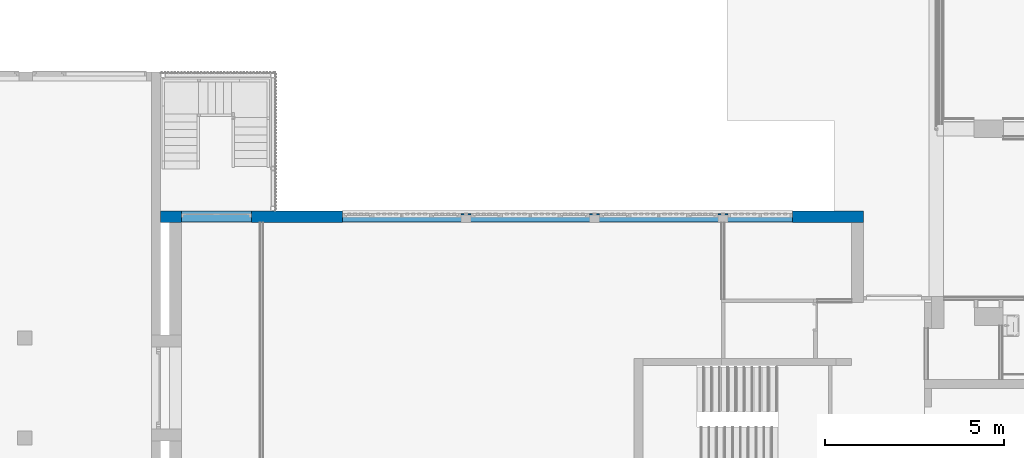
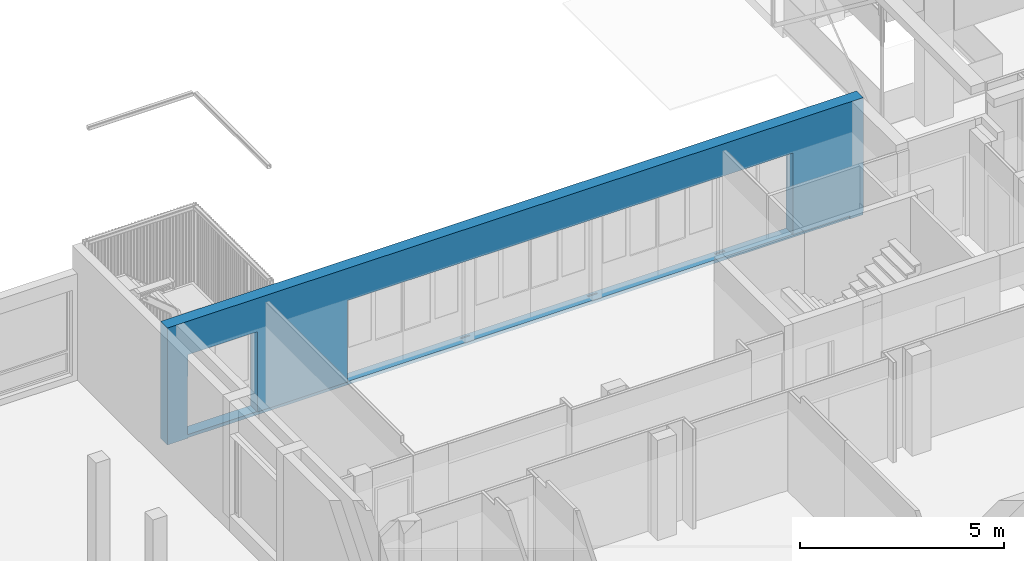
# One storey, part 37 of 117: 1 wall, 8 openings.
"""IFC2X3 building model written with IfcOpenShell, lengths in millimetres."""

import ifcopenshell
import ifcopenshell.guid

model = None  # the IFC model being written
_history = None  # IfcOwnerHistory: only IFC2X3 demands one
_inside = {}  # id of a spatial element -> (the spatial element, [elements in it])
_under = {}  # id of a project, library or spatial element -> (it, [spatial elements below it])
_declared = {}  # id of a project -> (the project, [libraries it declares])
_typed = {}  # id of a type object -> (the type object, [elements of that type])
_made_of = {}  # id of a material, layer set ... -> (it, [elements and type objects made of it])


def new_model(schema):
    """Start an empty IFC model of exactly this schema.

    Asked for "IFC4X3", IfcOpenShell would pick the latest addendum, in which some entities
    have other attributes; the version numbers below select the first issue.
    IFC2X3 requires an IfcOwnerHistory on every rooted entity: one is made here for all.
    """
    global model, _history
    if schema == "IFC4X3":
        model = ifcopenshell.file(schema_version=(4, 3, 0, 0))
    else:
        model = ifcopenshell.file(schema=schema)
    _inside.clear()
    _under.clear()
    _declared.clear()
    _typed.clear()
    _made_of.clear()
    _history = None
    if model.schema == "IFC2X3":
        org = make("IfcOrganization", Name="unknown")
        user = make(
            "IfcPersonAndOrganization",
            ThePerson=make("IfcPerson", FamilyName="unknown"),
            TheOrganization=org,
        )
        app = make(
            "IfcApplication",
            ApplicationDeveloper=org,
            Version="unknown",
            ApplicationFullName="unknown",
            ApplicationIdentifier="unknown",
        )
        _history = make(
            "IfcOwnerHistory",
            OwningUser=user,
            OwningApplication=app,
            ChangeAction="ADDED",
            CreationDate=0,
        )
    return model


def make(cls, **values):
    """One entity of the class cls with the attributes given. An attribute that is None is left unset."""
    return model.create_entity(
        cls, **{name: value for name, value in values.items() if value is not None}
    )


def entity(cls, *values):
    """Any entity or typed value of the class cls, its attributes in the order of the schema. None: left unset."""
    e = model.create_entity(cls)
    for i, value in enumerate(values):
        if value is not None:
            e[i] = value
    return e


def rooted(cls, **values):
    """An entity with a GlobalId (a new one), such as an element, a storey or a relation."""
    return make(cls, GlobalId=ifcopenshell.guid.new(), OwnerHistory=_history, **values)


def si_unit(unit_type, name, prefix=None):
    """IfcSIUnit, for example si_unit("LENGTHUNIT", "METRE", prefix="MILLI")."""
    return make("IfcSIUnit", UnitType=unit_type, Prefix=prefix, Name=name)


def converted_unit(unit_type, name, factor, base, dimensions=None, offset=None):
    """IfcConversionBasedUnit, such as the inch: factor (a typed value) times the base unit."""
    return make(
        "IfcConversionBasedUnit"
        if offset is None
        else "IfcConversionBasedUnitWithOffset",
        ConversionOffset=offset,
        Dimensions=None
        if dimensions is None
        else entity("IfcDimensionalExponents", *dimensions),
        UnitType=unit_type,
        Name=name,
        ConversionFactor=make(
            "IfcMeasureWithUnit", ValueComponent=factor, UnitComponent=base
        ),
    )


def derived_unit(unit_type, elements):
    """IfcDerivedUnit: a product of units, each with its exponent."""
    return make(
        "IfcDerivedUnit",
        Elements=[
            make("IfcDerivedUnitElement", Unit=unit, Exponent=power)
            for unit, power in elements
        ],
        UnitType=unit_type,
    )


def money_unit(currency):
    """IfcMonetaryUnit."""
    return make("IfcMonetaryUnit", Currency=currency)


def assignment(units):
    """IfcUnitAssignment: the units of a project."""
    return None if units is None else make("IfcUnitAssignment", Units=units)


def point(xyz):
    """IfcCartesianPoint."""
    return None if xyz is None else make("IfcCartesianPoint", Coordinates=xyz)


def direction(xyz):
    """IfcDirection."""
    return None if xyz is None else make("IfcDirection", DirectionRatios=xyz)


def frame(location, z_axis=None, x_axis=None):
    """IfcAxis2Placement3D, a coordinate frame: its origin and axes. An axis left out is left unset."""
    return make(
        "IfcAxis2Placement3D",
        Location=point(location),
        Axis=direction(z_axis),
        RefDirection=direction(x_axis),
    )


def origin_with_axes():
    """The frame at (0, 0, 0) with the z axis (0, 0, 1) and the x axis (1, 0, 0) written out."""
    return frame((0.0, 0.0, 0.0), z_axis=(0.0, 0.0, 1.0), x_axis=(1.0, 0.0, 0.0))


def place(relative_to, where):
    """IfcLocalPlacement: puts the frame where relative to a parent placement (None: the world)."""
    return make(
        "IfcLocalPlacement", PlacementRelTo=relative_to, RelativePlacement=where
    )


def context(
    kind, dimensions, precision=None, world=None, true_north=None, identifier=None
):
    """IfcGeometricRepresentationContext, for example the 3D "Model" context."""
    return make(
        "IfcGeometricRepresentationContext",
        ContextIdentifier=identifier,
        ContextType=kind,
        CoordinateSpaceDimension=dimensions,
        Precision=precision,
        WorldCoordinateSystem=world,
        TrueNorth=true_north,
    )


def subcontext(parent, identifier, kind, view, scale=None):
    """IfcGeometricRepresentationSubContext, for example "Body" below "Model"."""
    return make(
        "IfcGeometricRepresentationSubContext",
        ContextIdentifier=identifier,
        ContextType=kind,
        ParentContext=parent,
        TargetScale=scale,
        TargetView=view,
    )


def project(units=None, contexts=None):
    """IfcProject with its units and contexts."""
    return rooted(
        "IfcProject",
        Name="project",
        RepresentationContexts=contexts,
        UnitsInContext=assignment(units),
    )


def spatial(cls, under=None, at=None, **own):
    """A site, building, storey or space (cls), placed at a placement, below another one or the project."""
    s = rooted(cls, ObjectPlacement=at, **own)
    if under is not None:
        _under.setdefault(under.id(), (under, []))[1].append(s)
    return s


def faces_of(points, faces, orient=None, outer=None):
    """IfcFace entities. A face is a list of loops; a loop is a list of indices into points, from 0.

    orient and outer hold one flag for each loop. By default every Orientation is true, the
    first loop of a face is its IfcFaceOuterBound and the others are IfcFaceBound.
    """
    made = []
    for i, loops in enumerate(faces):
        bounds = []
        for j, loop in enumerate(loops):
            is_outer = j == 0 if outer is None else outer[i][j]
            bounds.append(
                make(
                    "IfcFaceOuterBound" if is_outer else "IfcFaceBound",
                    Bound=make("IfcPolyLoop", Polygon=[points[k] for k in loop]),
                    Orientation=True if orient is None else orient[i][j],
                )
            )
        made.append(make("IfcFace", Bounds=bounds))
    return made


def faceted_brep(points, faces, orient=None, outer=None, voids=None):
    """IfcFacetedBrep: a solid bounded by flat faces; with voids (closed shells), ...WithVoids."""
    shared = [point(p) for p in points]
    hull = make("IfcClosedShell", CfsFaces=faces_of(shared, faces, orient, outer))
    if voids is None:
        return make("IfcFacetedBrep", Outer=hull)
    return make(
        "IfcFacetedBrepWithVoids",
        Outer=hull,
        Voids=[
            make(cls, CfsFaces=faces_of(shared, fs, o, b)) for cls, fs, o, b in voids
        ],
    )


def shape(context_of_items, identifier, shape_type, items):
    """IfcShapeRepresentation: the items that make up one representation, for example the "Body"."""
    return make(
        "IfcShapeRepresentation",
        ContextOfItems=context_of_items,
        RepresentationIdentifier=identifier,
        RepresentationType=shape_type,
        Items=items,
    )


def material(Name=None, Category=None):
    """IfcMaterial."""
    return make("IfcMaterial", Name=Name, Category=Category)


def made_of(thing, what):
    """Note that an element or type object is made of a material, layer set ...; save() writes the relation."""
    if what is not None:
        _made_of.setdefault(what.id(), (what, []))[1].append(thing)
    return thing


def type_object(cls, material=None, **own):
    """A type object (cls), such as IfcWallType, which elements share."""
    return made_of(rooted(cls, **own), material)


def element(
    cls,
    number,
    at=None,
    inside=None,
    cuts=None,
    type_object=None,
    material=None,
    context=None,
    identifier="Body",
    shape_type=None,
    held_by="IfcProductDefinitionShape",
    body=None,
    shapes=None,
    **own,
):
    """One element of the class cls, such as IfcWall. Its Tag is "e" and its number.

    at: its placement. inside: the storey or other place that contains it. cuts: it is an
    opening in that element (IfcRelVoidsElement). A single representation is given by context,
    identifier, shape_type and body (its items); several are given by shapes. held_by: the class
    of the entity that holds the representations. save() writes the other relations.
    """
    e = rooted(cls, Tag="e%d" % number, ObjectPlacement=at, **own)
    if body is not None:
        shapes = [shape(context, identifier, shape_type, body)]
    if shapes is not None:
        e.Representation = make(held_by, Representations=shapes)
    if inside is not None:
        _inside.setdefault(inside.id(), (inside, []))[1].append(e)
    if cuts is not None:
        rooted(
            "IfcRelVoidsElement", RelatingBuildingElement=cuts, RelatedOpeningElement=e
        )
    if type_object is not None:
        _typed.setdefault(type_object.id(), (type_object, []))[1].append(e)
    return made_of(e, material)


def aggregate(whole, parts):
    """IfcRelAggregates: a whole, such as a stair, and the parts it consists of."""
    return rooted("IfcRelAggregates", RelatingObject=whole, RelatedObjects=parts)


def save(model, path):
    """Write the relations noted so far, then the file.

    IfcRelAggregates (storeys below a building ...), IfcRelContainedInSpatialStructure (elements
    in a storey), IfcRelDefinesByType, IfcRelAssociatesMaterial and IfcRelDeclares: one each for
    every whole, place, type object, material and project.
    """
    for whole, parts in _under.values():
        aggregate(whole, parts)
    for where, things in _inside.values():
        rooted(
            "IfcRelContainedInSpatialStructure",
            RelatedElements=things,
            RelatingStructure=where,
        )
    for kind, things in _typed.values():
        rooted("IfcRelDefinesByType", RelatedObjects=things, RelatingType=kind)
    for what, things in _made_of.values():
        rooted("IfcRelAssociatesMaterial", RelatedObjects=things, RelatingMaterial=what)
    for by, libraries in _declared.values():
        rooted("IfcRelDeclares", RelatingContext=by, RelatedDefinitions=libraries)
    model.write(path)


model = new_model("IFC2X3")

# Units and contexts
model_context = context("Model", 3, precision=0.01, world=origin_with_axes(), true_north=direction((0.0, 1.0)))
body_context = subcontext(model_context, "Body", "Model", "MODEL_VIEW")
ifc_project = project(units=[si_unit("LENGTHUNIT", "METRE", prefix="MILLI"), si_unit("AREAUNIT", "SQUARE_METRE"), si_unit("VOLUMEUNIT", "CUBIC_METRE"), converted_unit("PLANEANGLEUNIT", "DEGREE", entity("IfcPlaneAngleMeasure", 0.0174532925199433), si_unit("PLANEANGLEUNIT", "RADIAN"), dimensions=[0, 0, 0, 0, 0, 0, 0]), money_unit("EUR"), converted_unit("TIMEUNIT", "Year", entity("IfcTimeMeasure", 31557600.0), si_unit("TIMEUNIT", "SECOND"), dimensions=[0, 0, 1, 0, 0, 0, 0]), si_unit("MASSUNIT", "GRAM", prefix="KILO"), si_unit("THERMODYNAMICTEMPERATUREUNIT", "DEGREE_CELSIUS"), si_unit("LUMINOUSINTENSITYUNIT", "LUMEN"), si_unit("ENERGYUNIT", "JOULE", prefix="MEGA"), derived_unit("THERMALCONDUCTANCEUNIT", [(si_unit("POWERUNIT", "WATT"), 1), (si_unit("LENGTHUNIT", "METRE"), -1), (si_unit("THERMODYNAMICTEMPERATUREUNIT", "KELVIN"), -1)]), derived_unit("SPECIFICHEATCAPACITYUNIT", [(si_unit("ENERGYUNIT", "JOULE"), 1), (si_unit("MASSUNIT", "GRAM", prefix="KILO"), -1), (si_unit("THERMODYNAMICTEMPERATUREUNIT", "KELVIN"), -1)]), derived_unit("MASSDENSITYUNIT", [(si_unit("MASSUNIT", "GRAM", prefix="KILO"), 1), (si_unit("VOLUMEUNIT", "CUBIC_METRE"), -1)])], contexts=[model_context])

# Site, building, storey
site_placement = place(None, origin_with_axes())
site = spatial("IfcSite", under=ifc_project, at=site_placement, Name="Site", CompositionType="ELEMENT")
building_placement = place(site_placement, origin_with_axes())
building = spatial("IfcBuilding", under=site, at=building_placement, Name="Naam gebouw", CompositionType="ELEMENT")
storey_placement = place(building_placement, frame((0.0, 0.0, 4150.0), z_axis=(0.0, 0.0, 1.0), x_axis=(1.0, 0.0, 0.0)))
storey = spatial("IfcBuildingStorey", under=building, at=storey_placement, Name="1e verdieping N", CompositionType="ELEMENT", Elevation=4150.0)

# Wall, openings
ifc_material = material(Name="ALG - CONSTRUCTIEF")
wall_type = type_object("IfcWallType", Name="ALG - CONSTRUCTIEF 330", PredefinedType="NOTDEFINED")
wall_placement = place(storey_placement, frame((18000.00000910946, 19995.91321708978, -99.99999999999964), z_axis=(0.0, 0.0, 1.0), x_axis=(-0.9999999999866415, -5.168867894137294e-06, 0.0)))
wall = element("IfcWall", 1, at=wall_placement, inside=storey, type_object=wall_type, material=ifc_material, Name="_Wand-x", context=body_context, shape_type="Brep", body=[
    faceted_brep([(16803.088577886, 0.0001701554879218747, 99.99999999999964), (16803.088577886, -19.98590840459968, 99.99999999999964), (14262.49866534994, -19.98578315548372, 99.99999999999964), (14262.49866534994, 0.0003899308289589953, 99.99999999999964), (16803.088577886, -330.0000000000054, 99.99999999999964), (16803.088577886, -0.0005300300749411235, 2500.0), (16803.088577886, -329.9999999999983, 2500.0), (18770.07611456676, -19.98600537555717, 99.99999999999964), (18770.07601126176, -19.98600537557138, 0.0), (50.00000813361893, -19.98508249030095, 0.0), (50.00000813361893, -19.98508249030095, 99.99999999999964), (1662.498665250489, -19.98516198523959, 99.99999999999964), (14262.49866534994, -330.0000000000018, 99.99999999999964), (14262.49866534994, -330.0000000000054, 103.2702048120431), (14262.49866534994, -260.0000000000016, 115.6130934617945), (14262.49866534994, -253.0637940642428, 116.8361337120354), (14262.49866534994, -253.0637940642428, 128.5143329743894), (14262.49866534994, -255.0637940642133, 128.5143329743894), (14262.49866534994, -255.0637940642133, 118.5143329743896), (14262.49866534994, -260.0000000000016, 117.6439466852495), (14262.49866534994, -330.0000000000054, 105.3010580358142), (14262.49866534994, -330.0000000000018, 2540.00000000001), (14262.49866534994, -0.0005857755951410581, 2540.00000000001), (1662.498665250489, 0.0004204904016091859, 2539.999999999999), (1662.498665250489, 0.001567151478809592, 99.99999999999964), (50.00000911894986, 0.001714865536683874, 99.99999999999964), (-318.7173821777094, 0.0, 0.0), (-318.7173821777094, 0.0, 99.99999999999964), (-330.0000000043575, 0.0, 99.99999999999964), (-330.0000000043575, 0.0, 3500.0), (153.2229483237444, 0.0, 3500.0), (153.2229494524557, 0.0, 3300.000000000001), (18884.42764882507, 0.0, 3300.000000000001), (19350.00000934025, 0.0, 3500.0), (19350.00000934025, 0.0, 0.0), (18770.07611456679, 0.0, 0.0), (18770.07611456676, 0.0, 99.99999999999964), (18770.07611456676, -0.0004932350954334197, 2500.0), (18770.07611456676, -330.000000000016, 99.99999999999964), (18770.07611456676, -330.0000000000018, 2500.0), (16259.99830360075, -330.0000000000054, 99.99999999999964), (19349.99830361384, -330.0000000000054, 0.0), (19349.99830361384, -330.0000000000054, 3500.0), (-330.0016966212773, -330.0000000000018, 3500.0), (-330.0016966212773, -330.0000000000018, 99.99999999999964), (492.9983033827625, -330.0000000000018, 99.99999999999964), (492.9983033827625, -330.0000000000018, 0.0), (557.9983033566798, -329.9999999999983, 0.0), (557.9983033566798, -329.9999999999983, 99.99999999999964), (657.9983033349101, -330.0000000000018, 99.99999999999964), (657.9983033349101, -330.0000000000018, 0.0), (16259.99830360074, -330.0000000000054, 0.0), (1662.498665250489, -329.9999999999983, 2539.999999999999), (1662.498665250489, -330.0000000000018, 99.99999999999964), (1662.498665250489, -330.0000000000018, 103.2589561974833), (1662.498665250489, -330.0000000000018, 105.2898094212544), (557.9983810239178, -314.9740657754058, 0.0), (492.9983810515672, -314.9737297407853, 0.0), (-318.7190102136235, -314.9695340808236, 0.0), (50.0000091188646, 0.0, 0.0), (657.9983809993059, -314.9745826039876, 0.0), (3462.498892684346, -215.9992080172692, 99.99999999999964), (3737.498892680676, -216.0006294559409, 99.99999999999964), (3737.498665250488, -260.0000000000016, 99.99999999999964), (3462.498892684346, -260.0000000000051, 99.99999999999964), (7062.500236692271, -215.9977865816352, 99.99999999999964), (7337.500236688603, -215.9992080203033, 99.99999999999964), (7337.500009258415, -260.0000000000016, 99.99999999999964), (7062.500009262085, -260.0000000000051, 99.99999999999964), (10662.49889278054, -215.9992078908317, 100.0000000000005), (10937.49889277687, -216.0006293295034, 99.99999999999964), (10937.49949213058, -260.0000000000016, 99.99999999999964), (10662.49866535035, -260.0000000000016, 99.99999999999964), (3737.498892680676, -216.0006294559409, 2540.0), (3462.498892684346, -215.9992080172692, 2539.999999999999), (3462.498892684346, -260.0000000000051, 2539.999999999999), (3737.498665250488, -260.0000000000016, 2540.0), (7337.500236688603, -215.9992080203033, 2540.0), (7062.500236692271, -215.9977865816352, 2540.0), (7062.500009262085, -260.0000000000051, 2540.0), (7337.500009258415, -260.0000000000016, 2540.0), (10662.49866535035, -260.0000000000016, 2540.00000000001), (10937.49949213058, -260.0000000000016, 2540.00000000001), (10937.49889277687, -216.0006293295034, 2540.00000000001), (10662.49889278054, -215.9992078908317, 2540.00000000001), (1662.498665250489, -260.0000000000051, 117.6326980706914), (1662.498665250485, -255.0000000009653, 118.5143329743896), (1662.498665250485, -255.0000000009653, 128.5143329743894), (1662.498665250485, -253.0000000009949, 128.5143329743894), (1662.498665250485, -253.0000000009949, 116.8361337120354), (1662.498665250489, -260.0000000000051, 115.6018448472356), (-318.7190102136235, -314.9695340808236, 99.99999999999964), (492.9983810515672, -314.9737297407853, 99.99999999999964), (18884.42764832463, -0.09681912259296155, 3500.0), (557.9983810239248, -314.9740657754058, 99.99999999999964), (657.9983809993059, -314.9745826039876, 99.99999999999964)], [[[0, 1, 2, 3]], [[4, 1, 0, 5, 6]], [[1, 7, 8, 9, 10, 11, 2]], [[3, 2, 12, 13, 14, 15, 16, 17, 18, 19, 20, 21, 22]], [[5, 0, 3, 22, 23, 24, 25, 26, 27, 28, 29, 30, 31, 32, 33, 34, 35, 36, 37]], [[7, 1, 4, 38]], [[6, 5, 37, 39]], [[40, 4, 6, 39, 38, 41, 42, 43, 44, 45, 46, 47, 48, 49, 50, 51], [52, 21, 20, 13, 12, 53, 54, 55]], [[7, 36, 35, 8]], [[56, 47, 46, 57, 58, 26, 59, 9, 8, 35, 34, 41, 51, 50, 60]], [[9, 59, 25, 10]], [[24, 11, 10, 25]], [[12, 2, 11, 53], [61, 62, 63, 64], [65, 66, 67, 68], [69, 70, 71, 72]], [[19, 18, 17, 16, 15, 14, 13, 20]], [[52, 23, 22, 21], [73, 74, 75, 76], [77, 78, 79, 80], [81, 82, 83, 84]], [[23, 52, 55, 85, 86, 87, 88, 89, 90, 54, 53, 11, 24]], [[59, 26, 25]], [[27, 26, 58, 91]], [[28, 27, 91, 92, 45, 44]], [[29, 28, 44, 43]], [[33, 93, 30, 29, 43, 42]], [[32, 31, 30]], [[93, 33, 32]], [[34, 33, 42, 41]], [[37, 36, 7, 38, 39]], [[40, 51, 41, 38, 4]], [[92, 57, 46, 45]], [[56, 94, 48, 47]], [[94, 95, 49, 48]], [[95, 60, 50, 49]], [[55, 54, 90, 89, 88, 87, 86, 85]], [[57, 92, 91, 58]], [[56, 60, 95, 94]], [[62, 61, 64, 63]], [[66, 65, 68, 67]], [[69, 72, 71, 70]], [[74, 73, 76, 75]], [[78, 77, 80, 79]], [[81, 84, 83, 82]], [[93, 32, 30]]]),
])
opening_1_placement = place(wall_placement, frame((4568.755261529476, 0.0, 99.99999999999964), z_axis=(0.0, 0.0, 1.0), x_axis=(1.0, 0.0, 0.0)))
element("IfcOpeningElement", 2, at=opening_1_placement, cuts=wall, Name="_Merk-020sp", context=body_context, shape_type="Brep", body=[
    faceted_brep([(831.2565962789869, -260.0000000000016, 0.0), (831.2565962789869, -260.0000000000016, 2440.0), (831.2565962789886, -331.1013098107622, 2440.0), (831.2565962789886, -331.1013098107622, 0.0), (831.2565962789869, 1.101309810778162, 0.0), (831.2565962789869, 1.101309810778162, 2440.0), (-1106.256596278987, -260.0000000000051, 2440.0), (-1106.256596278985, -331.1013098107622, 2440.0), (-1106.256596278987, 1.101309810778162, 2440.0), (-1106.256596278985, -331.1013098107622, 0.0), (-1106.256596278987, -260.0000000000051, 0.0), (-1106.256596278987, 1.101309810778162, 0.0)], [[[0, 1, 2, 3]], [[1, 0, 4, 5]], [[6, 7, 2, 1, 5, 8]], [[7, 9, 3, 2]], [[0, 3, 9, 10, 11, 4]], [[5, 4, 11, 8]], [[6, 10, 9, 7]], [[10, 6, 8, 11]]]),
])
opening_2_placement = place(wall_placement, frame((2562.498778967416, 0.0, 99.99999999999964), z_axis=(0.0, 0.0, 1.0), x_axis=(1.0, 0.0, 0.0)))
element("IfcOpeningElement", 3, at=opening_2_placement, cuts=wall, Name="_Merk-021", context=body_context, shape_type="Brep", body=[
    faceted_brep([(900.0001137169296, -260.0000000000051, 0.0), (900.0001137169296, -260.0000000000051, 2440.0), (900.0001137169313, -331.1013098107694, 2440.0), (900.0001137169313, -331.1013098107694, 0.0), (900.0001137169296, 1.101309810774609, 0.0), (900.0001137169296, 1.101309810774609, 2440.0), (-900.0001137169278, -260.0000000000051, 2440.0), (-900.0001137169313, -331.1013098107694, 2440.0), (-900.0001137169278, 1.101309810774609, 2440.0), (-900.0001137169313, -331.1013098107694, 0.0), (-900.0001137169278, -260.0000000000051, 0.0), (-900.0001137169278, 1.101309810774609, 0.0)], [[[0, 1, 2, 3]], [[1, 0, 4, 5]], [[6, 7, 2, 1, 5, 8]], [[7, 9, 3, 2]], [[0, 3, 9, 10, 11, 4]], [[5, 4, 11, 8]], [[6, 10, 9, 7]], [[10, 6, 8, 11]]]),
])
opening_3_placement = place(wall_placement, frame((9831.249492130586, 0.0, 99.99999999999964), z_axis=(0.0, 0.0, 1.0), x_axis=(1.0, 0.0, 0.0)))
element("IfcOpeningElement", 4, at=opening_3_placement, cuts=wall, Name="_Merk-020", context=body_context, shape_type="Brep", body=[
    faceted_brep([(1106.249999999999, -260.0000000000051, 0.0), (1106.249999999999, -260.0000000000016, 2440.00000000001), (1106.249999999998, -331.1013098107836, 2440.00000000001), (1106.249999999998, -331.1013098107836, 0.0), (1106.249999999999, 1.101309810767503, 0.0), (1106.249999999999, 1.101309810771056, 2440.00000000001), (-831.2500000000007, -260.0000000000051, 2440.00000000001), (-831.249999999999, -331.1013098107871, 2440.00000000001), (-831.2500000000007, 1.101309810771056, 2440.00000000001), (-831.249999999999, -331.1013098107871, 0.0), (-831.2500000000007, -260.0000000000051, 0.0), (-831.2500000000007, 1.101309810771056, 0.0)], [[[0, 1, 2, 3]], [[1, 0, 4, 5]], [[6, 7, 2, 1, 5, 8]], [[7, 9, 3, 2]], [[0, 3, 9, 10, 11, 4]], [[5, 4, 11, 8]], [[6, 10, 9, 7]], [[10, 6, 8, 11]]]),
])
opening_4_placement = place(wall_placement, frame((6231.267449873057, 0.0, 99.99999999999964), z_axis=(0.0, 0.0, 1.0), x_axis=(1.0, 0.0, 0.0)))
element("IfcOpeningElement", 5, at=opening_4_placement, cuts=wall, Name="_Merk-020", context=body_context, shape_type="Brep", body=[
    faceted_brep([(1106.25559206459, -260.0000000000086, 0.0), (1106.25559206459, -260.0000000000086, 2440.0), (1106.255592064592, -331.1013098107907, 2440.0), (1106.255592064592, -331.1013098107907, 0.0), (1106.25559206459, 1.101309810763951, 0.0), (1106.25559206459, 1.101309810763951, 2440.0), (-831.2555920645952, -260.0000000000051, 2440.0), (-831.2555920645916, -331.1013098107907, 2440.0), (-831.2555920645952, 1.101309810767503, 2440.0), (-831.2555920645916, -331.1013098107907, 0.0), (-831.2555920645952, -260.0000000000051, 0.0), (-831.2555920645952, 1.101309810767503, 0.0)], [[[0, 1, 2, 3]], [[1, 0, 4, 5]], [[6, 7, 2, 1, 5, 8]], [[7, 9, 3, 2]], [[0, 3, 9, 10, 11, 4]], [[5, 4, 11, 8]], [[6, 10, 9, 7]], [[10, 6, 8, 11]]]),
])
opening_5_placement = place(wall_placement, frame((8168.749492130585, 0.0, 99.99999999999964), z_axis=(0.0, 0.0, 1.0), x_axis=(1.0, 0.0, 0.0)))
element("IfcOpeningElement", 6, at=opening_5_placement, cuts=wall, Name="_Merk-020sp", context=body_context, shape_type="Brep", body=[
    faceted_brep([(831.249999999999, -260.0000000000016, 0.0), (831.249999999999, -260.0000000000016, 2440.00000000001), (831.249999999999, -331.1013098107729, 2440.00000000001), (831.249999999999, -331.1013098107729, 0.0), (831.249999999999, 1.101309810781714, 0.0), (831.249999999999, 1.101309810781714, 2440.00000000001), (-1106.250000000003, -260.0000000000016, 2440.00000000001), (-1106.250000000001, -331.1013098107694, 2440.00000000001), (-1106.250000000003, 1.101309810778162, 2440.00000000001), (-1106.250000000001, -331.1013098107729, 0.0), (-1106.250000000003, -260.0000000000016, 0.0), (-1106.250000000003, 1.101309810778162, 0.0)], [[[0, 1, 2, 3]], [[1, 0, 4, 5]], [[6, 7, 2, 1, 5, 8]], [[7, 9, 3, 2]], [[0, 3, 9, 10, 11, 4]], [[5, 4, 11, 8]], [[6, 10, 9, 7]], [[10, 6, 8, 11]]]),
])
opening_6_placement = place(wall_placement, frame((13431.24866534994, 0.0, 99.99999999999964), z_axis=(0.0, 0.0, 1.0), x_axis=(1.0, 0.0, 0.0)))
element("IfcOpeningElement", 7, at=opening_6_placement, cuts=wall, Name="_Merk-020", context=body_context, shape_type="Brep", body=[
    faceted_brep([(831.2499999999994, -260.0000000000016, 0.0), (831.2499999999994, -260.0000000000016, 2440.00000000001), (831.2499999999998, -331.10130981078, 2440.00000000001), (831.2499999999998, -331.10130981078, 0.0), (831.2499999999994, 1.101309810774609, 0.0), (831.2499999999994, 1.101309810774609, 2440.00000000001), (-831.2500000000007, -260.0000000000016, 2440.00000000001), (-831.2500000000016, -331.1013098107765, 2440.00000000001), (-831.2500000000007, 1.101309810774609, 2440.00000000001), (-831.2500000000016, -331.1013098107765, 0.0), (-831.2500000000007, -260.0000000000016, 0.0), (-831.2500000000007, 1.101309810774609, 0.0)], [[[0, 1, 2, 3]], [[1, 0, 4, 5]], [[6, 7, 2, 1, 5, 8]], [[7, 9, 3, 2]], [[0, 3, 9, 10, 11, 4]], [[5, 4, 11, 8]], [[6, 10, 9, 7]], [[10, 6, 8, 11]]]),
])
opening_7_placement = place(wall_placement, frame((11768.74866534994, 0.0, 99.99999999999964), z_axis=(0.0, 0.0, 1.0), x_axis=(1.0, 0.0, 0.0)))
element("IfcOpeningElement", 8, at=opening_7_placement, cuts=wall, Name="_Merk-020sp", context=body_context, shape_type="Brep", body=[
    faceted_brep([(831.2499999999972, -260.0000000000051, 0.0), (831.2499999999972, -260.0000000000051, 2440.00000000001), (831.2499999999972, -331.1013098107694, 2440.00000000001), (831.2499999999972, -331.1013098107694, 0.0), (831.2499999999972, 1.101309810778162, 0.0), (831.2499999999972, 1.101309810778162, 2440.00000000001), (-1106.250000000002, -260.0000000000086, 2440.00000000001), (-1106.250000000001, -331.1013098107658, 2440.00000000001), (-1106.250000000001, 1.101309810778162, 2440.00000000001), (-1106.250000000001, -331.1013098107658, 0.0), (-1106.250000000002, -260.0000000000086, 0.0), (-1106.250000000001, 1.101309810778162, 0.0)], [[[0, 1, 2, 3]], [[1, 0, 4, 5]], [[6, 7, 2, 1, 5, 8]], [[7, 9, 3, 2]], [[0, 3, 9, 10, 11, 4]], [[5, 4, 11, 8]], [[6, 10, 9, 7]], [[10, 6, 8, 11]]]),
])
opening_8_placement = place(wall_placement, frame((17786.58234622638, 0.0, 99.99999999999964), z_axis=(0.0, 0.0, 1.0), x_axis=(1.0, 0.0, 0.0)))
element("IfcOpeningElement", 9, at=opening_8_placement, cuts=wall, Name="_Merk-018", context=body_context, shape_type="Brep", body=[
    faceted_brep([(983.4937683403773, -260.0000000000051, 0.0), (983.4937683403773, -260.0000000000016, 2400.0), (983.4937683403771, -331.1013098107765, 2400.0), (983.4937683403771, -331.1013098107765, 0.0), (983.4937683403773, 1.101309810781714, 0.0), (983.4937683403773, 1.101309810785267, 2400.0), (-983.4937683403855, -260.0000000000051, 2400.0), (-983.4937683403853, -331.1013098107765, 2400.0), (-983.4937683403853, 1.101309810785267, 2400.0), (-983.4937683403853, -331.1013098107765, 0.0), (-983.4937683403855, -260.0000000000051, 0.0), (-983.4937683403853, 1.101309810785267, 0.0)], [[[0, 1, 2, 3]], [[1, 0, 4, 5]], [[6, 7, 2, 1, 5, 8]], [[7, 9, 3, 2]], [[0, 3, 9, 10, 11, 4]], [[5, 4, 11, 8]], [[6, 10, 9, 7]], [[10, 6, 8, 11]]]),
])

save(model, "model.ifc")
